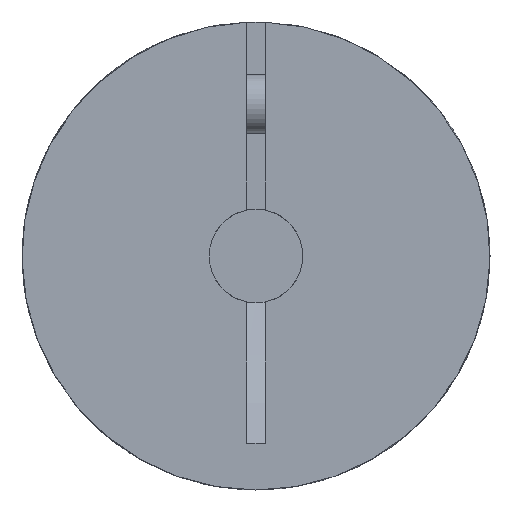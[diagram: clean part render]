
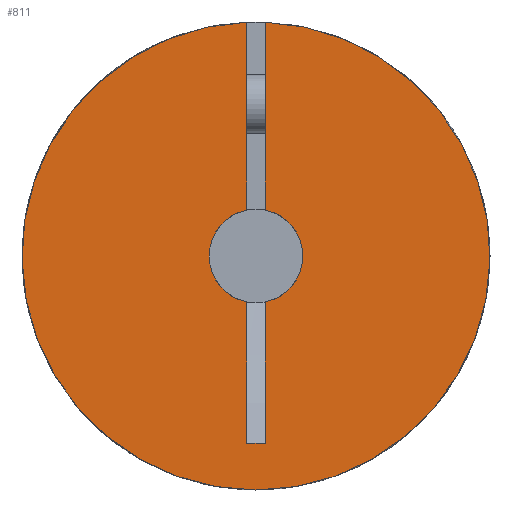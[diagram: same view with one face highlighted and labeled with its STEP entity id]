
A CAD part, left-side view. The second image highlights one B-rep face of the part: STEP entity #811.
In plain terms, the highlighted planar face has unit normal (-1, 0, 0) as drawn and (0, 0, -1) by its records, which use the part's own axes.
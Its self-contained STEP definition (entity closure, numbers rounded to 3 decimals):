
#4 = AXIS2_PLACEMENT_3D ( 'NONE', #61, #1031, #786 ) ;
#61 = CARTESIAN_POINT ( 'NONE',  ( 0., 0., 0. ) ) ;
#85 = VECTOR ( 'NONE', #1169, 1000. ) ;
#121 = CARTESIAN_POINT ( 'NONE',  ( 0., 0., 0. ) ) ;
#196 = DIRECTION ( 'NONE',  ( 1., 0., 0. ) ) ;
#215 = FACE_OUTER_BOUND ( 'NONE', #1210, .T. ) ;
#231 = DIRECTION ( 'NONE',  ( 1., 0., 0. ) ) ;
#273 = EDGE_CURVE ( 'NONE', #2992, #442, #2107, .T. ) ;
#295 = DIRECTION ( 'NONE',  ( -1., 0., 0. ) ) ;
#307 = VECTOR ( 'NONE', #646, 1000. ) ;
#411 = CARTESIAN_POINT ( 'NONE',  ( -9.992, 0.4, 0. ) ) ;
#422 = ORIENTED_EDGE ( 'NONE', *, *, #686, .T. ) ;
#442 = VERTEX_POINT ( 'NONE', #1295 ) ;
#504 = CARTESIAN_POINT ( 'NONE',  ( 0., 0., 0. ) ) ;
#520 = EDGE_CURVE ( 'NONE', #2579, #2445, #1018, .T. ) ;
#533 = CARTESIAN_POINT ( 'NONE',  ( -10., 0.4, 0. ) ) ;
#646 = DIRECTION ( 'NONE',  ( -1., 0., 0. ) ) ;
#658 = CARTESIAN_POINT ( 'NONE',  ( -1.96, 0.4, 0. ) ) ;
#686 = EDGE_CURVE ( 'NONE', #2499, #2445, #2867, .T. ) ;
#690 = CIRCLE ( 'NONE', #2224, 2. ) ;
#697 = EDGE_CURVE ( 'NONE', #442, #2579, #2136, .T. ) ;
#717 = CARTESIAN_POINT ( 'NONE',  ( 1.96, -0.4, 0. ) ) ;
#724 = DIRECTION ( 'NONE',  ( 0., 0., -1. ) ) ;
#733 = CARTESIAN_POINT ( 'NONE',  ( 0., 0., 0. ) ) ;
#755 = DIRECTION ( 'NONE',  ( -1., 0., 0. ) ) ;
#786 = DIRECTION ( 'NONE',  ( 1., 0., 0. ) ) ;
#811 = ADVANCED_FACE ( 'NONE', ( #215 ), #2898, .F. ) ;
#836 = CARTESIAN_POINT ( 'NONE',  ( 1.96, 0.4, 0. ) ) ;
#842 = DIRECTION ( 'NONE',  ( -1., 0., 0. ) ) ;
#909 = CARTESIAN_POINT ( 'NONE',  ( -10., 0.4, 0. ) ) ;
#1018 = CIRCLE ( 'NONE', #4, 10. ) ;
#1031 = DIRECTION ( 'NONE',  ( 0., 0., 1. ) ) ;
#1141 = EDGE_CURVE ( 'NONE', #2499, #2335, #2796, .T. ) ;
#1169 = DIRECTION ( 'NONE',  ( 0., 1., 0. ) ) ;
#1170 = AXIS2_PLACEMENT_3D ( 'NONE', #733, #1947, #196 ) ;
#1176 = ORIENTED_EDGE ( 'NONE', *, *, #2437, .T. ) ;
#1210 = EDGE_LOOP ( 'NONE', ( #2875, #2153, #1258, #1176, #1657, #1287, #422, #3010, #1722 ) ) ;
#1220 = CARTESIAN_POINT ( 'NONE',  ( 0., 0., 0. ) ) ;
#1258 = ORIENTED_EDGE ( 'NONE', *, *, #1561, .F. ) ;
#1287 = ORIENTED_EDGE ( 'NONE', *, *, #1141, .F. ) ;
#1295 = CARTESIAN_POINT ( 'NONE',  ( -9.992, -0.4, 0. ) ) ;
#1320 = VECTOR ( 'NONE', #2404, 1000. ) ;
#1561 = EDGE_CURVE ( 'NONE', #2892, #3006, #2078, .T. ) ;
#1657 = ORIENTED_EDGE ( 'NONE', *, *, #2576, .T. ) ;
#1664 = DIRECTION ( 'NONE',  ( 0., 0., 1. ) ) ;
#1722 = ORIENTED_EDGE ( 'NONE', *, *, #697, .F. ) ;
#1806 = VECTOR ( 'NONE', #842, 1000. ) ;
#1846 = DIRECTION ( 'NONE',  ( 0., 0., -1. ) ) ;
#1883 = CARTESIAN_POINT ( 'NONE',  ( 8., -0.4, 0. ) ) ;
#1945 = CARTESIAN_POINT ( 'NONE',  ( -1.96, -0.4, 0. ) ) ;
#1947 = DIRECTION ( 'NONE',  ( 0., 0., 1. ) ) ;
#2078 = LINE ( 'NONE', #3003, #1806 ) ;
#2099 = VECTOR ( 'NONE', #295, 1000. ) ;
#2107 = LINE ( 'NONE', #3078, #307 ) ;
#2113 = VERTEX_POINT ( 'NONE', #2199 ) ;
#2134 = EDGE_CURVE ( 'NONE', #3006, #2992, #690, .T. ) ;
#2136 = CIRCLE ( 'NONE', #1170, 10. ) ;
#2153 = ORIENTED_EDGE ( 'NONE', *, *, #2134, .F. ) ;
#2177 = LINE ( 'NONE', #533, #2099 ) ;
#2199 = CARTESIAN_POINT ( 'NONE',  ( 8., 0.4, 0. ) ) ;
#2224 = AXIS2_PLACEMENT_3D ( 'NONE', #504, #724, #755 ) ;
#2249 = AXIS2_PLACEMENT_3D ( 'NONE', #1220, #1664, #231 ) ;
#2335 = VERTEX_POINT ( 'NONE', #836 ) ;
#2404 = DIRECTION ( 'NONE',  ( -1., 0., 0. ) ) ;
#2437 = EDGE_CURVE ( 'NONE', #2892, #2113, #2659, .T. ) ;
#2445 = VERTEX_POINT ( 'NONE', #411 ) ;
#2499 = VERTEX_POINT ( 'NONE', #658 ) ;
#2576 = EDGE_CURVE ( 'NONE', #2113, #2335, #2177, .T. ) ;
#2579 = VERTEX_POINT ( 'NONE', #3149 ) ;
#2623 = CARTESIAN_POINT ( 'NONE',  ( 8., -0.4, 0. ) ) ;
#2659 = LINE ( 'NONE', #2623, #85 ) ;
#2748 = AXIS2_PLACEMENT_3D ( 'NONE', #121, #1846, #2832 ) ;
#2796 = CIRCLE ( 'NONE', #2748, 2. ) ;
#2832 = DIRECTION ( 'NONE',  ( -1., 0., 0. ) ) ;
#2867 = LINE ( 'NONE', #909, #1320 ) ;
#2875 = ORIENTED_EDGE ( 'NONE', *, *, #273, .F. ) ;
#2892 = VERTEX_POINT ( 'NONE', #1883 ) ;
#2898 = PLANE ( 'NONE',  #2249 ) ;
#2992 = VERTEX_POINT ( 'NONE', #1945 ) ;
#3003 = CARTESIAN_POINT ( 'NONE',  ( -10., -0.4, 0. ) ) ;
#3006 = VERTEX_POINT ( 'NONE', #717 ) ;
#3010 = ORIENTED_EDGE ( 'NONE', *, *, #520, .F. ) ;
#3078 = CARTESIAN_POINT ( 'NONE',  ( -10., -0.4, 0. ) ) ;
#3149 = CARTESIAN_POINT ( 'NONE',  ( 10., 0., 0. ) ) ;
